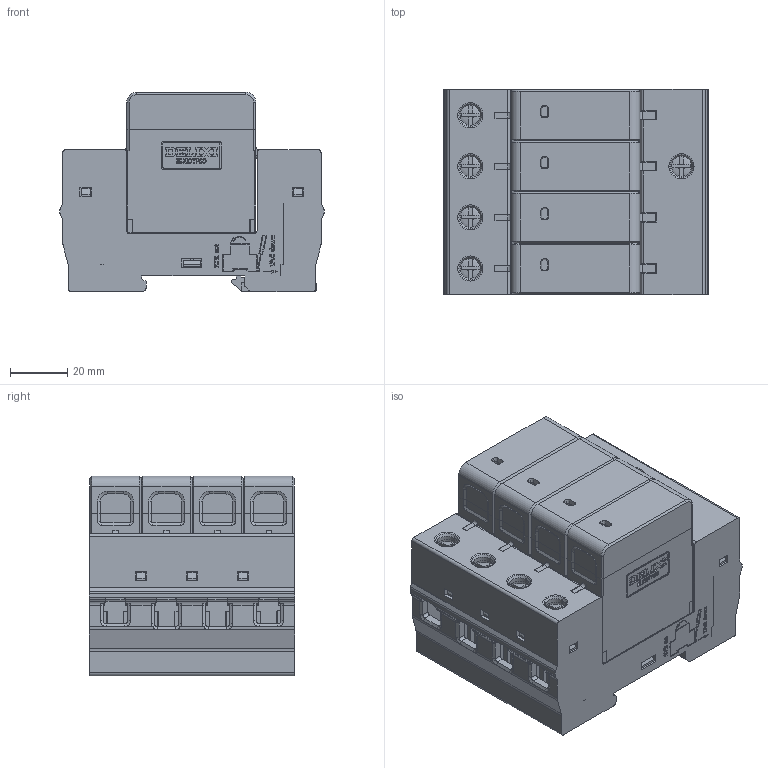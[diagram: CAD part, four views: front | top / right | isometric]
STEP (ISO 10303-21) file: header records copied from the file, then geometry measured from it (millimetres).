
FILE_DESCRIPTION((''),'2;1');
FILE_NAME('2DLX_207_001_1_DZ47Y-65_4P_ASM','2021-11-19T',('linxiao.guan'),(''),'PRO/ENGINEER BY PARAMETRIC TECHNOLOGY CORPORATION, 2015440','PRO/ENGINEER BY PARAMETRIC TECHNOLOGY CORPORATION, 2015440','');
FILE_SCHEMA(('CONFIG_CONTROL_DESIGN'));
Products named in the file (5): MANIFOLD_SOLID_BREP_159034_AF0; MANIFOLD_SOLID_BREP_159184; 2DLX_207_001_46_ASM_SW0001__AF0_ASM; 8005031500; 2DLX_207_001_1_DZ47Y-65_4P_ASM
Assembly tree (7 placements, depth 3):
  2DLX_207_001_1_DZ47Y-65_4P_ASM
    2DLX_207_001_46_ASM_SW0001__AF0_ASM
      MANIFOLD_SOLID_BREP_159034_AF0
      MANIFOLD_SOLID_BREP_159184
    8005031500  x4
Bounding box: 92 x 71.6 x 69.5 mm (x, y, z)
Volume: 123483.3 mm3; surface area: 156999.7 mm2
Topology: 6 solids, 6 shells, 7013 faces, 20184 edges, 13338 vertices
Faces by surface type: plane 6263, cylinder 560, cone 110, torus 42, sphere 20, bspline 18
Entity records: 169360 total; most frequent: CARTESIAN_POINT 35408, ORIENTED_EDGE 29308, DIRECTION 25469, EDGE_CURVE 14654, VECTOR 13233, LINE 13233, VERTEX_POINT 9681, AXIS2_PLACEMENT_3D 6118
